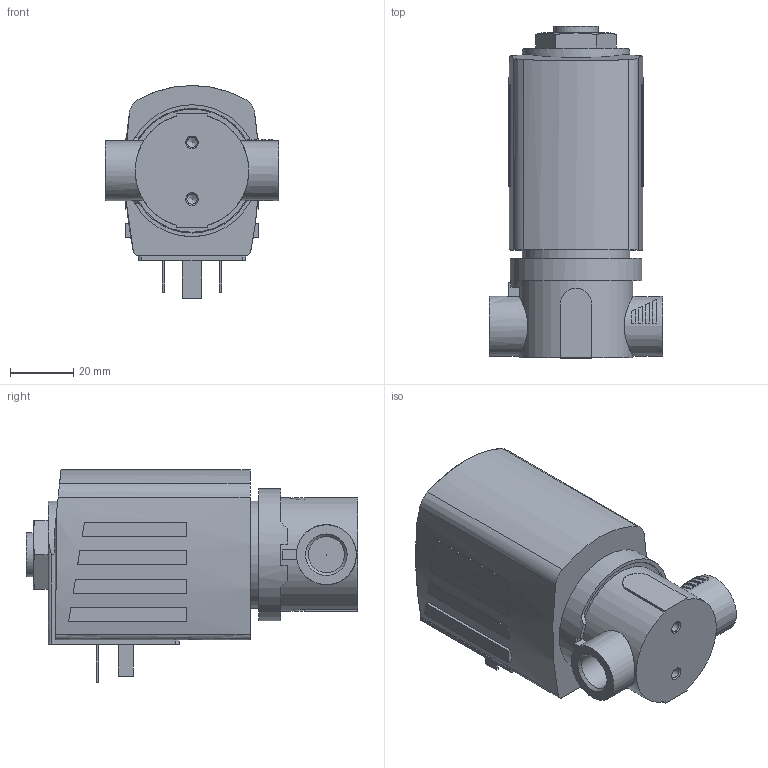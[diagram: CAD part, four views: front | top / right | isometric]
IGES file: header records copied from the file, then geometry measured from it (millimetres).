
Start section: Data from Parasolid IGES Translator 26.0.171, Copyright(c) 2006 Siemens PLM Software. All Rights Reserved.
Global section: file name: 6240-369428-2_2-way_solenoid_valve__pilot-controlled.igs; native system: By Siemens PLM Incorporated; preprocessor: XPlus GENERIC/IGES 26.0.171; author: Noname; organization: Noname; date: 20240510.112727; units: millimetre
Bounding box: 55 x 105.2 x 67.5 mm (x, y, z)
Surface area: 27180.4 mm2 (no closed solid volume)
Topology: 0 solids, 0 shells, 166 faces, 804 edges, 784 vertices
Faces by surface type: extrusion 117, revolution 49
